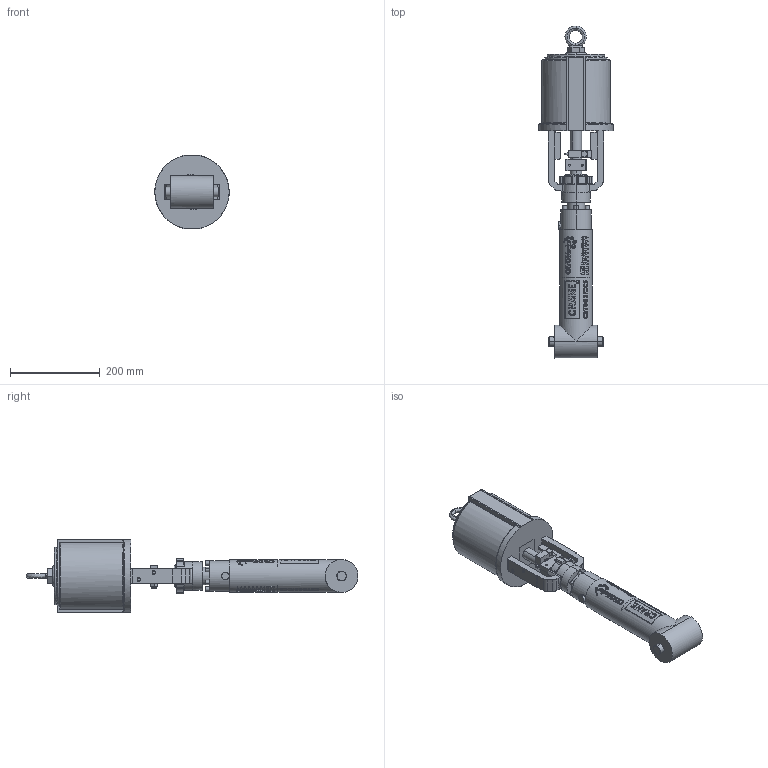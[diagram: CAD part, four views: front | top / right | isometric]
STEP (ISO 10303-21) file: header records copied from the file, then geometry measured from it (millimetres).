
FILE_DESCRIPTION (( 'STEP AP203' ), '1' );
FILE_NAME ('0.5IN T-PATTERN PNEUMATIC CRANE BELLOWS SEAL VALVE.step', '2025-12-17T20:04:25', ( '' ), ( '' ), 'SwSTEP 2.0', 'SolidWorks 2023', '' );
FILE_SCHEMA (( 'CONFIG_CONTROL_DESIGN' ));
Products named in the file (1): 0.5IN T-PATTERN PNEUMATIC CRANE BELLOWS SEAL VALVE
Bounding box: 164.97 x 737.93 x 163.58 mm (x, y, z)
Surface area: 314194.2 mm2 (no closed solid volume)
Topology: 0 solids, 3 shells, 1950 faces, 5060 edges, 3318 vertices
Faces by surface type: plane 998, cylinder 597, bspline 240, torus 70, cone 39, sphere 6
Full cylindrical faces by diameter (mm): 1.195 x2, 1.309 x2, 1.422 x2, 1.631 x2, 1.842 x2, 2.373 x2, 2.456 x2, 2.727 x2, 2.906 x2, 3.046 x2, 3.207 x2, 3.658 x2, 4.941 x2, 6.104 x2, 7.386 x2, 8.599 x2, 73.025 x1
Entity records: 105091 total; most frequent: CARTESIAN_POINT 64966, ORIENTED_EDGE 9980, DIRECTION 5618, EDGE_CURVE 4992, VERTEX_POINT 3312, B_SPLINE_CURVE_WITH_KNOTS 2399, EDGE_LOOP 2227, AXIS2_PLACEMENT_3D 2043
